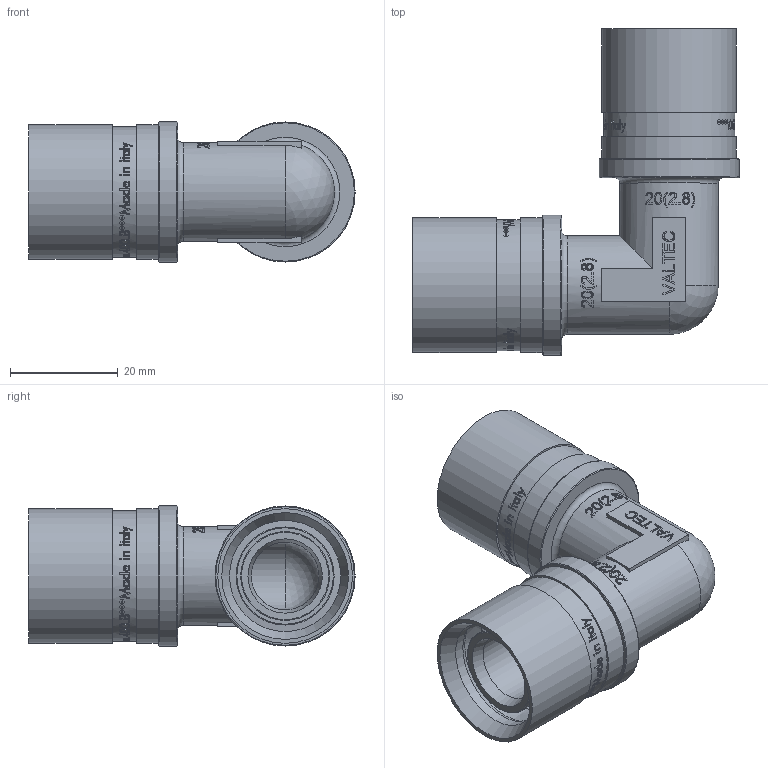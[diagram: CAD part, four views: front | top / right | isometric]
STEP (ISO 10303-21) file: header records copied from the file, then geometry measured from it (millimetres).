
FILE_DESCRIPTION(/* description */ (''),/* implementation_level */ '2;1');
FILE_NAME(/* name */ 'F:\Артём\00000\Работа удаленка\Аксеальные фитинги\VTm.451.BG.002020.stp',/* time_stamp */ '2021-01-27T11:24:46+03:00',/* author */ ('almis'),/* organization */ (''),/* preprocessor_version */ 'ST-DEVELOPER v18',/* originating_system */ 'Autodesk Inventor 2020',/* authorisation */ '');
FILE_SCHEMA (('AUTOMOTIVE_DESIGN { 1 0 10303 214 3 1 1 }'));
Length unit declared in the file: millimetre
Products named in the file (1): VTm.403.BG.001616
Bounding box: 60.56 x 60.56 x 26 mm (x, y, z)
Volume: 18430.7 mm3; surface area: 17156.3 mm2
Topology: 1 solids, 1 shells, 1707 faces, 4670 edges, 3148 vertices
Faces by surface type: bspline 862, plane 609, cylinder 174, torus 46, cone 14, sphere 2
Full cylindrical faces by diameter (mm): 12.6 x2, 15.7 x10, 16.5 x8, 18.2 x2, 18.3 x2, 20.65 x4, 24.3 x2, 25 x4, 26 x2
Entity records: 70307 total; most frequent: CARTESIAN_POINT 32020, ORIENTED_EDGE 9340, DIRECTION 5428, EDGE_CURVE 4670, VERTEX_POINT 3148, LINE 2148, VECTOR 2148, EDGE_LOOP 1892
